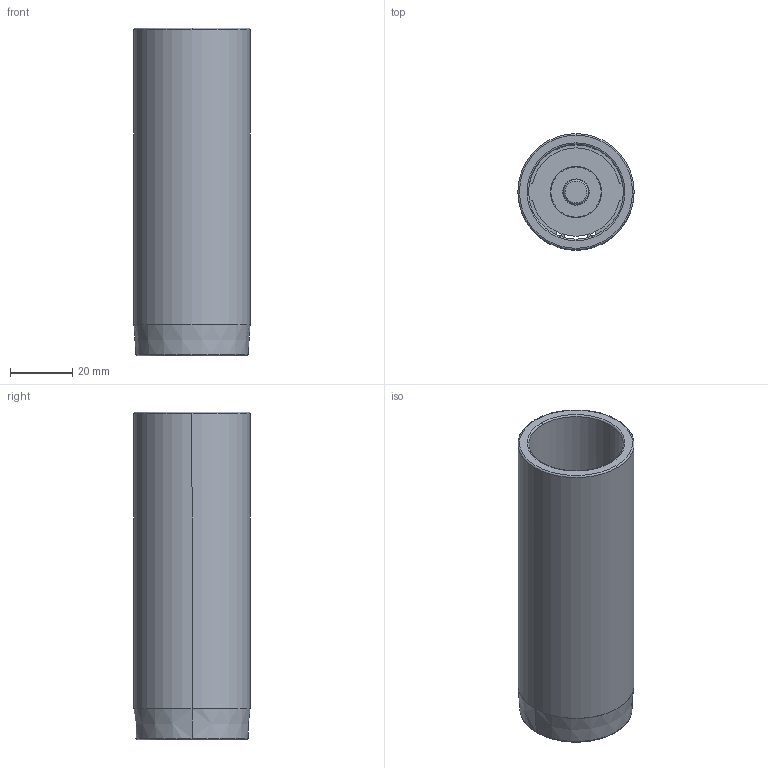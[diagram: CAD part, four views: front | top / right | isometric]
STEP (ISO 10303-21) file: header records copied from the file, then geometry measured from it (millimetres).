
FILE_DESCRIPTION((''),'2;1');
FILE_NAME('C12_030_105.stp','2009-01-28T09:46:40',(''),(''),'Mechanical Desktop 2009','Mechanical Desktop 2009',', , ');
FILE_SCHEMA(('CONFIG_CONTROL_DESIGN'));
Length unit declared in the file: millimetre
Products named in the file (2): Product; blmdl1
Assembly tree (1 placements, depth 2):
  Product
    blmdl1
Bounding box: 37.25 x 37.25 x 105 mm (x, y, z)
Volume: 41130.5 mm3; surface area: 27258.8 mm2
Topology: 5 solids, 5 shells, 79 faces, 200 edges, 134 vertices
Faces by surface type: cylinder 34, plane 29, torus 10, cone 6
Entity records: 2585 total; most frequent: DIRECTION 480, CARTESIAN_POINT 435, ORIENTED_EDGE 400, AXIS2_PLACEMENT_3D 203, EDGE_CURVE 200, VERTEX_POINT 134, CIRCLE 122, EDGE_LOOP 92
